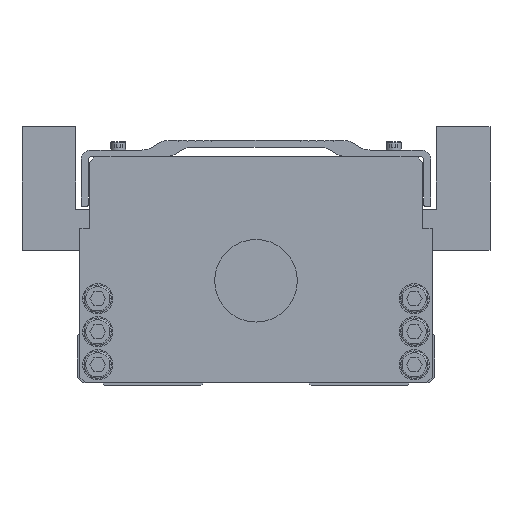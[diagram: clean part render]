
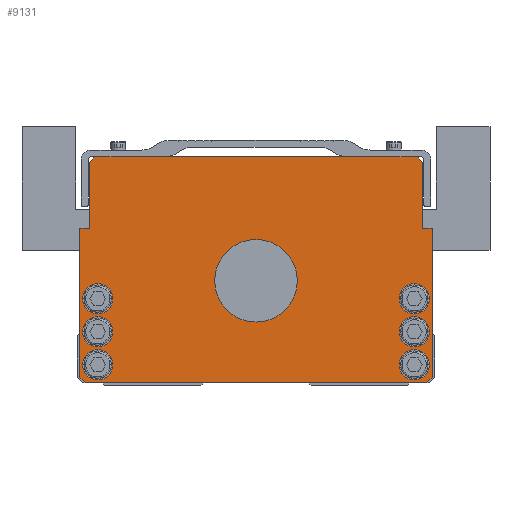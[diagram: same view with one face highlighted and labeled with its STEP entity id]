
A CAD part, front view. The second image highlights one B-rep face of the part: STEP entity #9131.
In plain terms, the highlighted planar face has unit normal (0, -1, 0).
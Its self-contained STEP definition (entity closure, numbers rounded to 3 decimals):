
#6749=VERTEX_POINT('',#19924);
#6925=EDGE_CURVE('',#6983,#19535,#20116,.T.);
#6951=VERTEX_POINT('',#20143);
#6969=EDGE_CURVE('',#13355,#8397,#20162,.T.);
#6983=VERTEX_POINT('',#20177);
#7603=EDGE_CURVE('',#9953,#8305,#20877,.T.);
#7675=EDGE_CURVE('',#11399,#18785,#20957,.T.);
#7691=EDGE_CURVE('',#19535,#18917,#20976,.T.);
#7859=VERTEX_POINT('',#21164);
#7981=VERTEX_POINT('',#21295);
#8009=EDGE_CURVE('',#8305,#9953,#21325,.T.);
#8113=VERTEX_POINT('',#21435);
#8305=VERTEX_POINT('',#21646);
#8397=VERTEX_POINT('',#21749);
#8943=EDGE_CURVE('',#10349,#13641,#22365,.T.);
#9131=ADVANCED_FACE('',(#22576,#22577,#22578,#22579,#22580,#22581,#22582,#22583),#22584,.T.);
#9769=VERTEX_POINT('',#23293);
#9953=VERTEX_POINT('',#23499);
#10349=VERTEX_POINT('',#23938);
#10743=EDGE_CURVE('',#18511,#13561,#24386,.T.);
#11255=VERTEX_POINT('',#24947);
#11399=VERTEX_POINT('',#25107);
#11539=VERTEX_POINT('',#25267);
#11753=EDGE_CURVE('',#8397,#13355,#25511,.T.);
#11865=VERTEX_POINT('',#25629);
#12177=EDGE_CURVE('',#15951,#6951,#25972,.T.);
#12425=EDGE_CURVE('',#8113,#15795,#26251,.T.);
#12619=EDGE_CURVE('',#7859,#11255,#26463,.T.);
#13205=EDGE_CURVE('',#11255,#11399,#27114,.T.);
#13355=VERTEX_POINT('',#27284);
#13561=VERTEX_POINT('',#27524);
#13641=VERTEX_POINT('',#27612);
#13671=VERTEX_POINT('',#27643);
#13701=EDGE_CURVE('',#11539,#7981,#27678,.T.);
#13963=EDGE_CURVE('',#15795,#8113,#27965,.T.);
#14941=EDGE_CURVE('',#13671,#15935,#29027,.T.);
#15597=EDGE_CURVE('',#9769,#13671,#29763,.T.);
#15795=VERTEX_POINT('',#29981);
#15935=VERTEX_POINT('',#30144);
#15951=VERTEX_POINT('',#30163);
#15993=EDGE_CURVE('',#13561,#18511,#30211,.T.);
#16415=VERTEX_POINT('',#30682);
#16871=EDGE_CURVE('',#15935,#11865,#31199,.T.);
#17055=EDGE_CURVE('',#17665,#16415,#31401,.T.);
#17665=VERTEX_POINT('',#32083);
#17671=EDGE_CURVE('',#16415,#6749,#32089,.T.);
#17911=EDGE_CURVE('',#6951,#15951,#32356,.T.);
#17933=EDGE_CURVE('',#6749,#9769,#32380,.T.);
#18387=EDGE_CURVE('',#13641,#10349,#32870,.T.);
#18511=VERTEX_POINT('',#33008);
#18785=VERTEX_POINT('',#33310);
#18917=VERTEX_POINT('',#33457);
#19251=EDGE_CURVE('',#18785,#17665,#33835,.T.);
#19521=EDGE_CURVE('',#7981,#11539,#34153,.T.);
#19535=VERTEX_POINT('',#34167);
#19577=EDGE_CURVE('',#11865,#6983,#34214,.T.);
#19663=EDGE_CURVE('',#18917,#7859,#34307,.T.);
#19924=CARTESIAN_POINT('',(64.0,0.0,3.0));
#20116=LINE('',#34895,#34896);
#20143=CARTESIAN_POINT('',(52.0,0.0,31.5));
#20162=CIRCLE('',#34962,5.5);
#20177=CARTESIAN_POINT('',(-60.5,0.0,57.0));
#20877=CIRCLE('',#35959,5.5);
#20957=LINE('',#36064,#36065);
#20976=LINE('',#36087,#36088);
#21164=CARTESIAN_POINT('',(-33.25,0.0,83.0));
#21295=CARTESIAN_POINT('',(-63.0,0.0,19.5));
#21325=CIRCLE('',#36578,5.5);
#21435=CARTESIAN_POINT('',(-52.0,0.0,31.5));
#21646=CARTESIAN_POINT('',(52.0,0.0,7.5));
#21749=CARTESIAN_POINT('',(52.0,0.0,19.5));
#22365=CIRCLE('',#38028,15.0);
#22576=FACE_BOUND('',#38298,.T.);
#22577=FACE_BOUND('',#38299,.T.);
#22578=FACE_BOUND('',#38300,.T.);
#22579=FACE_BOUND('',#38301,.T.);
#22580=FACE_BOUND('',#38302,.T.);
#22581=FACE_BOUND('',#38303,.T.);
#22582=FACE_BOUND('',#38304,.T.);
#22583=FACE_OUTER_BOUND('',#38305,.T.);
#22584=PLANE('',#38306);
#23293=CARTESIAN_POINT('',(62.0,0.0,1.0));
#23499=CARTESIAN_POINT('',(63.0,0.0,7.5));
#23938=CARTESIAN_POINT('',(15.0,0.0,38.0));
#24386=CIRCLE('',#40787,5.5);
#24947=CARTESIAN_POINT('',(33.25,0.0,83.0));
#25107=CARTESIAN_POINT('',(58.5,0.0,83.0));
#25267=CARTESIAN_POINT('',(-52.0,0.0,19.5));
#25511=CIRCLE('',#42301,5.5);
#25629=CARTESIAN_POINT('',(-64.0,0.0,57.0));
#25972=CIRCLE('',#42964,5.5);
#26251=CIRCLE('',#43363,5.5);
#26463=LINE('',#43677,#43678);
#27114=LINE('',#44593,#44594);
#27284=CARTESIAN_POINT('',(63.0,0.0,19.5));
#27524=CARTESIAN_POINT('',(-63.0,0.0,7.5));
#27612=CARTESIAN_POINT('',(-15.0,0.0,38.0));
#27643=CARTESIAN_POINT('',(-62.0,0.0,1.0));
#27678=CIRCLE('',#45383,5.5);
#27965=CIRCLE('',#45771,5.5);
#29027=LINE('',#47265,#47266);
#29763=LINE('',#48282,#48283);
#29981=CARTESIAN_POINT('',(-63.0,0.0,31.5));
#30144=CARTESIAN_POINT('',(-64.0,0.0,3.0));
#30163=CARTESIAN_POINT('',(63.0,0.0,31.5));
#30211=CIRCLE('',#48883,5.5);
#30682=CARTESIAN_POINT('',(64.0,0.0,57.0));
#31199=LINE('',#50253,#50254);
#31401=LINE('',#50526,#50527);
#32083=CARTESIAN_POINT('',(60.5,0.0,57.0));
#32089=LINE('',#51438,#51439);
#32356=CIRCLE('',#51793,5.5);
#32380=LINE('',#51825,#51826);
#32870=CIRCLE('',#52528,15.0);
#33008=CARTESIAN_POINT('',(-52.0,0.0,7.5));
#33310=CARTESIAN_POINT('',(60.5,0.0,81.0));
#33457=CARTESIAN_POINT('',(-58.5,0.0,83.0));
#33835=LINE('',#53859,#53860);
#34153=CIRCLE('',#54271,5.5);
#34167=CARTESIAN_POINT('',(-60.5,0.0,81.0));
#34214=LINE('',#54359,#54360);
#34307=LINE('',#54503,#54504);
#34895=CARTESIAN_POINT('',(-60.5,0.0,81.0));
#34896=VECTOR('',#54957,1.0);
#34962=AXIS2_PLACEMENT_3D('',#54993,#54994,#54995);
#35959=AXIS2_PLACEMENT_3D('',#55866,#55867,#55868);
#36064=CARTESIAN_POINT('',(60.5,0.0,81.0));
#36065=VECTOR('',#55972,1.);
#36087=CARTESIAN_POINT('',(-58.5,0.0,83.0));
#36088=VECTOR('',#55990,1.);
#36578=AXIS2_PLACEMENT_3D('',#56361,#56362,#56363);
#38028=AXIS2_PLACEMENT_3D('',#57606,#57607,#57608);
#38298=EDGE_LOOP('',(#57872,#57873));
#38299=EDGE_LOOP('',(#57874,#57875));
#38300=EDGE_LOOP('',(#57876,#57877));
#38301=EDGE_LOOP('',(#57878,#57879));
#38302=EDGE_LOOP('',(#57880,#57881));
#38303=EDGE_LOOP('',(#57882,#57883));
#38304=EDGE_LOOP('',(#57884,#57885));
#38305=EDGE_LOOP('',(#57886,#57887,#57888,#57889,#57890,#57891,#57892,#57893,#57894,#57895,#57896,#57897,#57898,#57899));
#38306=AXIS2_PLACEMENT_3D('',#57900,#57901,#57902);
#40787=AXIS2_PLACEMENT_3D('',#59915,#59916,#59917);
#42301=AXIS2_PLACEMENT_3D('',#61272,#61273,#61274);
#42964=AXIS2_PLACEMENT_3D('',#61745,#61746,#61747);
#43363=AXIS2_PLACEMENT_3D('',#62063,#62064,#62065);
#43677=CARTESIAN_POINT('',(58.5,0.0,83.0));
#43678=VECTOR('',#62338,1.0);
#44593=CARTESIAN_POINT('',(58.5,0.0,83.0));
#44594=VECTOR('',#63102,1.0);
#45383=AXIS2_PLACEMENT_3D('',#63867,#63868,#63869);
#45771=AXIS2_PLACEMENT_3D('',#64182,#64183,#64184);
#47265=CARTESIAN_POINT('',(-64.0,0.0,3.0));
#47266=VECTOR('',#65256,1.);
#48282=CARTESIAN_POINT('',(-62.0,0.0,1.0));
#48283=VECTOR('',#66146,1.0);
#48883=AXIS2_PLACEMENT_3D('',#66711,#66712,#66713);
#50253=CARTESIAN_POINT('',(-64.0,0.0,57.0));
#50254=VECTOR('',#67886,1.0);
#50526=CARTESIAN_POINT('',(64.0,0.0,57.0));
#50527=VECTOR('',#68098,1.0);
#51438=CARTESIAN_POINT('',(64.0,0.0,3.0));
#51439=VECTOR('',#68899,1.0);
#51793=AXIS2_PLACEMENT_3D('',#69195,#69196,#69197);
#51825=CARTESIAN_POINT('',(62.0,0.0,1.0));
#51826=VECTOR('',#69220,1.);
#52528=AXIS2_PLACEMENT_3D('',#69724,#69725,#69726);
#53859=CARTESIAN_POINT('',(60.5,0.0,57.0));
#53860=VECTOR('',#70801,1.0);
#54271=AXIS2_PLACEMENT_3D('',#71202,#71203,#71204);
#54359=CARTESIAN_POINT('',(-60.5,0.0,57.0));
#54360=VECTOR('',#71268,1.0);
#54503=CARTESIAN_POINT('',(58.5,0.0,83.0));
#54504=VECTOR('',#71361,1.0);
#54957=DIRECTION('',(0.0,0.0,1.0));
#54993=CARTESIAN_POINT('',(57.5,0.0,19.5));
#54994=DIRECTION('',(-0.0,1.0,0.0));
#54995=DIRECTION('',(1.0,0.0,0.0));
#55866=CARTESIAN_POINT('',(57.5,0.0,7.5));
#55867=DIRECTION('',(-0.0,1.0,0.0));
#55868=DIRECTION('',(1.0,0.0,0.0));
#55972=DIRECTION('',(0.707,0.0,-0.707));
#55990=DIRECTION('',(0.707,0.0,0.707));
#56361=CARTESIAN_POINT('',(57.5,0.0,7.5));
#56362=DIRECTION('',(-0.0,1.0,0.0));
#56363=DIRECTION('',(1.0,0.0,0.0));
#57606=CARTESIAN_POINT('',(0.0,0.0,38.0));
#57607=DIRECTION('',(-0.0,1.0,0.0));
#57608=DIRECTION('',(1.0,0.0,0.0));
#57872=ORIENTED_EDGE('',*,*,#8943,.T.);
#57873=ORIENTED_EDGE('',*,*,#18387,.T.);
#57874=ORIENTED_EDGE('',*,*,#12177,.T.);
#57875=ORIENTED_EDGE('',*,*,#17911,.T.);
#57876=ORIENTED_EDGE('',*,*,#6969,.T.);
#57877=ORIENTED_EDGE('',*,*,#11753,.T.);
#57878=ORIENTED_EDGE('',*,*,#7603,.T.);
#57879=ORIENTED_EDGE('',*,*,#8009,.T.);
#57880=ORIENTED_EDGE('',*,*,#12425,.T.);
#57881=ORIENTED_EDGE('',*,*,#13963,.T.);
#57882=ORIENTED_EDGE('',*,*,#13701,.T.);
#57883=ORIENTED_EDGE('',*,*,#19521,.T.);
#57884=ORIENTED_EDGE('',*,*,#10743,.T.);
#57885=ORIENTED_EDGE('',*,*,#15993,.T.);
#57886=ORIENTED_EDGE('',*,*,#14941,.F.);
#57887=ORIENTED_EDGE('',*,*,#15597,.F.);
#57888=ORIENTED_EDGE('',*,*,#17933,.F.);
#57889=ORIENTED_EDGE('',*,*,#17671,.F.);
#57890=ORIENTED_EDGE('',*,*,#17055,.F.);
#57891=ORIENTED_EDGE('',*,*,#19251,.F.);
#57892=ORIENTED_EDGE('',*,*,#7675,.F.);
#57893=ORIENTED_EDGE('',*,*,#13205,.F.);
#57894=ORIENTED_EDGE('',*,*,#12619,.F.);
#57895=ORIENTED_EDGE('',*,*,#19663,.F.);
#57896=ORIENTED_EDGE('',*,*,#7691,.F.);
#57897=ORIENTED_EDGE('',*,*,#6925,.F.);
#57898=ORIENTED_EDGE('',*,*,#19577,.F.);
#57899=ORIENTED_EDGE('',*,*,#16871,.F.);
#57900=CARTESIAN_POINT('',(0.,0.0,41.562));
#57901=DIRECTION('',(0.0,-1.0,0.0));
#57902=DIRECTION('',(1.0,0.0,0.0));
#59915=CARTESIAN_POINT('',(-57.5,0.0,7.5));
#59916=DIRECTION('',(-0.0,1.0,0.0));
#59917=DIRECTION('',(1.0,0.0,0.0));
#61272=CARTESIAN_POINT('',(57.5,0.0,19.5));
#61273=DIRECTION('',(-0.0,1.0,0.0));
#61274=DIRECTION('',(1.0,0.0,0.0));
#61745=CARTESIAN_POINT('',(57.5,0.0,31.5));
#61746=DIRECTION('',(-0.0,1.0,0.0));
#61747=DIRECTION('',(1.0,0.0,0.0));
#62063=CARTESIAN_POINT('',(-57.5,0.0,31.5));
#62064=DIRECTION('',(-0.0,1.0,0.0));
#62065=DIRECTION('',(1.0,0.0,0.0));
#62338=DIRECTION('',(1.0,0.0,0.0));
#63102=DIRECTION('',(1.0,0.0,0.0));
#63867=CARTESIAN_POINT('',(-57.5,0.0,19.5));
#63868=DIRECTION('',(-0.0,1.0,0.0));
#63869=DIRECTION('',(1.0,0.0,0.0));
#64182=CARTESIAN_POINT('',(-57.5,0.0,31.5));
#64183=DIRECTION('',(-0.0,1.0,0.0));
#64184=DIRECTION('',(1.0,0.0,0.0));
#65256=DIRECTION('',(-0.707,0.0,0.707));
#66146=DIRECTION('',(-1.0,0.0,-0.0));
#66711=CARTESIAN_POINT('',(-57.5,0.0,7.5));
#66712=DIRECTION('',(-0.0,1.0,0.0));
#66713=DIRECTION('',(1.0,0.0,0.0));
#67886=DIRECTION('',(0.0,0.0,1.0));
#68098=DIRECTION('',(1.0,0.0,0.0));
#68899=DIRECTION('',(-0.0,0.0,-1.0));
#69195=CARTESIAN_POINT('',(57.5,0.0,31.5));
#69196=DIRECTION('',(-0.0,1.0,0.0));
#69197=DIRECTION('',(1.0,0.0,0.0));
#69220=DIRECTION('',(-0.707,0.0,-0.707));
#69724=CARTESIAN_POINT('',(0.0,0.0,38.0));
#69725=DIRECTION('',(-0.0,1.0,0.0));
#69726=DIRECTION('',(1.0,0.0,0.0));
#70801=DIRECTION('',(-0.0,0.0,-1.0));
#71202=CARTESIAN_POINT('',(-57.5,0.0,19.5));
#71203=DIRECTION('',(-0.0,1.0,0.0));
#71204=DIRECTION('',(1.0,0.0,0.0));
#71268=DIRECTION('',(1.0,0.0,0.0));
#71361=DIRECTION('',(1.0,0.0,0.0));
